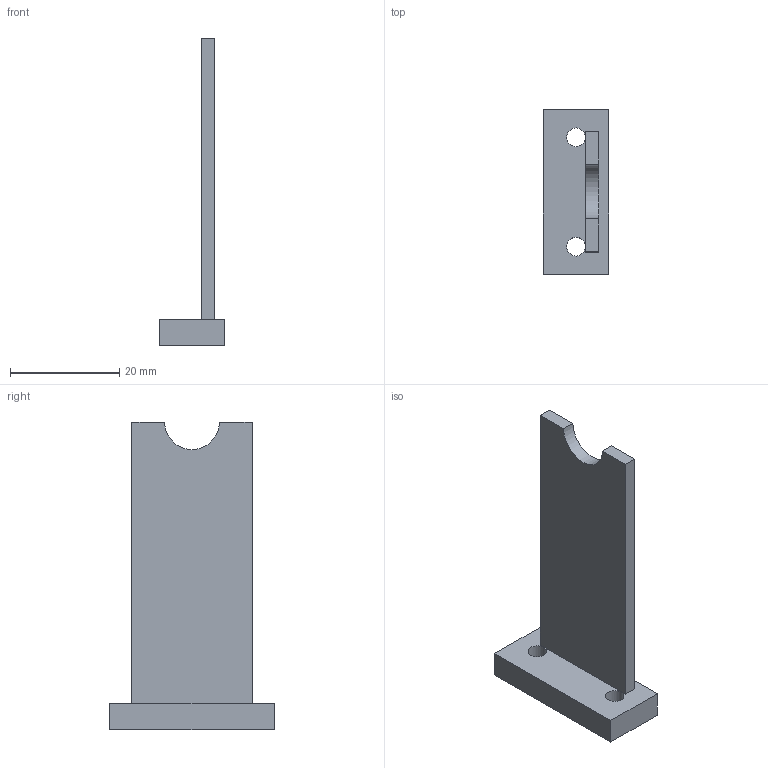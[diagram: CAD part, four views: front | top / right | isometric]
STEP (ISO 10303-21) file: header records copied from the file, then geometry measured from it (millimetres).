
FILE_DESCRIPTION(('Open CASCADE Model'),'2;1');
FILE_NAME('SH_encoder_holder','2026-11-05T16:12:41',('Author'),( 'Open CASCADE'),'Open CASCADE STEP processor 7.9','build123d', 'Unknown');
FILE_SCHEMA(('AUTOMOTIVE_DESIGN { 1 0 10303 214 1 1 1 1 }'));
Length unit declared in the file: millimetre
Products named in the file (2): SH_encoder_holder
Assembly tree (1 placements, depth 2):
  SH_encoder_holder
    SH_encoder_holder
Bounding box: 12 x 30 x 56.2 mm (x, y, z)
Volume: 4260.5 mm3; surface area: 3632.9 mm2
Topology: 1 solids, 1 shells, 15 faces, 36 edges, 24 vertices
Faces by surface type: plane 12, cylinder 3
Full cylindrical faces by diameter (mm): 3.4 x2
Entity records: 965 total; most frequent: CARTESIAN_POINT 157, DIRECTION 145, LINE 94, VECTOR 94, ORIENTED_EDGE 72, PCURVE 72, DEFINITIONAL_REPRESENTATION 72, EDGE_CURVE 36
